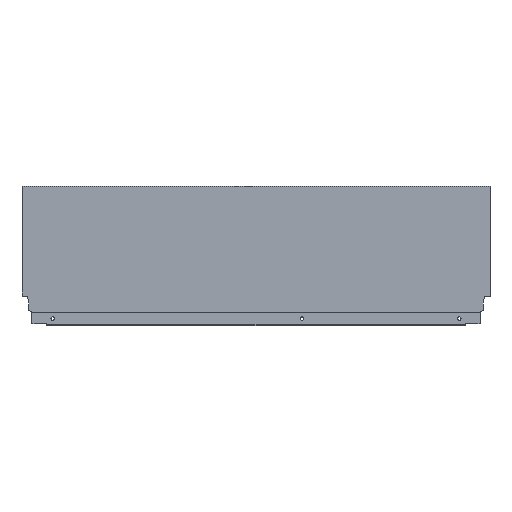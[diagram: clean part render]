
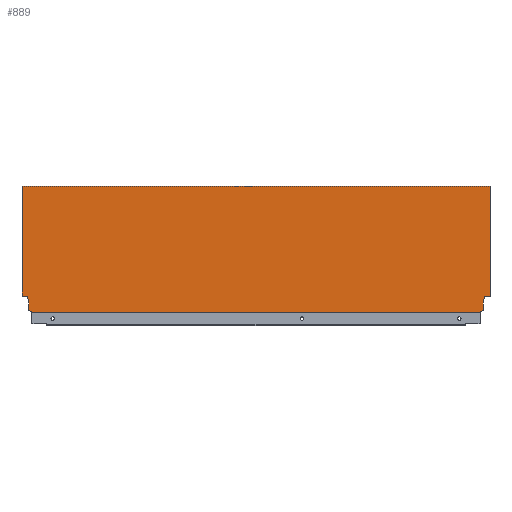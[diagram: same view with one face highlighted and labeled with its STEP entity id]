
A CAD part, top view. The second image highlights one B-rep face of the part: STEP entity #889.
In plain terms, the highlighted planar face has unit normal (0, 0, 1).
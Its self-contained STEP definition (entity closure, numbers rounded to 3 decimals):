
#26 = EDGE_CURVE ( 'NONE', #1122, #1112, #1328, .T. ) ;
#30 = EDGE_CURVE ( 'NONE', #1128, #1108, #1327, .T. ) ;
#32 = EDGE_CURVE ( 'NONE', #1115, #1107, #1297, .T. ) ;
#33 = EDGE_CURVE ( 'NONE', #1122, #1127, #1294, .T. ) ;
#34 = EDGE_CURVE ( 'NONE', #1081, #1127, #1295, .T. ) ;
#35 = EDGE_CURVE ( 'NONE', #1107, #1128, #1288, .T. ) ;
#36 = EDGE_CURVE ( 'NONE', #1100, #1081, #1296, .T. ) ;
#37 = EDGE_CURVE ( 'NONE', #1112, #1115, #1291, .T. ) ;
#38 = EDGE_CURVE ( 'NONE', #1137, #1111, #1289, .T. ) ;
#39 = EDGE_CURVE ( 'NONE', #1125, #1108, #1285, .T. ) ;
#41 = EDGE_CURVE ( 'NONE', #1089, #1100, #1283, .T. ) ;
#43 = EDGE_CURVE ( 'NONE', #1150, #1089, #1279, .T. ) ;
#45 = EDGE_CURVE ( 'NONE', #1111, #1150, #1268, .T. ) ;
#47 = EDGE_CURVE ( 'NONE', #1125, #1137, #1271, .T. ) ;
#162 = CARTESIAN_POINT ( 'NONE',  ( -611., 164.7, 7.5 ) ) ;
#165 = CARTESIAN_POINT ( 'NONE',  ( -8.9, 2.64, 7.5 ) ) ;
#167 = CARTESIAN_POINT ( 'NONE',  ( -597.996, 0., 7.5 ) ) ;
#175 = CARTESIAN_POINT ( 'NONE',  ( -602.1, 2.64, 7.5 ) ) ;
#179 = CARTESIAN_POINT ( 'NONE',  ( -597.996, 1.146, 7.5 ) ) ;
#180 = CARTESIAN_POINT ( 'NONE',  ( 0., 21.2, 7.5 ) ) ;
#183 = CARTESIAN_POINT ( 'NONE',  ( -611., 21.2, 7.5 ) ) ;
#185 = CARTESIAN_POINT ( 'NONE',  ( -602.1, 10.765, 7.5 ) ) ;
#251 = FACE_OUTER_BOUND ( 'NONE', #1465, .T. ) ;
#500 = CARTESIAN_POINT ( 'NONE',  ( -7.06, 21.2, 7.5 ) ) ;
#513 = CARTESIAN_POINT ( 'NONE',  ( -603.94, 21.2, 7.5 ) ) ;
#514 = CARTESIAN_POINT ( 'NONE',  ( -13.004, 0., 7.5 ) ) ;
#519 = CARTESIAN_POINT ( 'NONE',  ( 0., 164.7, 7.5 ) ) ;
#628 = AXIS2_PLACEMENT_3D ( 'NONE', #722, #711, #710 ) ;
#655 = CARTESIAN_POINT ( 'NONE',  ( -8.9, 10.765, 7.5 ) ) ;
#668 = CARTESIAN_POINT ( 'NONE',  ( -13.004, 1.146, 7.5 ) ) ;
#710 = DIRECTION ( 'NONE',  ( 1., 0., 0. ) ) ;
#711 = DIRECTION ( 'NONE',  ( 0., 0., 1. ) ) ;
#722 = CARTESIAN_POINT ( 'NONE',  ( -611., 0., 7.5 ) ) ;
#725 = PLANE ( 'NONE',  #628 ) ;
#766 = ORIENTED_EDGE ( 'NONE', *, *, #39, .T. ) ;
#767 = ORIENTED_EDGE ( 'NONE', *, *, #30, .F. ) ;
#768 = ORIENTED_EDGE ( 'NONE', *, *, #35, .F. ) ;
#799 = ORIENTED_EDGE ( 'NONE', *, *, #43, .F. ) ;
#811 = ORIENTED_EDGE ( 'NONE', *, *, #26, .F. ) ;
#830 = ORIENTED_EDGE ( 'NONE', *, *, #47, .F. ) ;
#835 = ORIENTED_EDGE ( 'NONE', *, *, #36, .F. ) ;
#836 = ORIENTED_EDGE ( 'NONE', *, *, #41, .F. ) ;
#837 = ORIENTED_EDGE ( 'NONE', *, *, #34, .F. ) ;
#838 = ORIENTED_EDGE ( 'NONE', *, *, #33, .T. ) ;
#846 = ORIENTED_EDGE ( 'NONE', *, *, #37, .F. ) ;
#847 = ORIENTED_EDGE ( 'NONE', *, *, #32, .F. ) ;
#855 = ORIENTED_EDGE ( 'NONE', *, *, #45, .F. ) ;
#856 = ORIENTED_EDGE ( 'NONE', *, *, #38, .F. ) ;
#889 = ADVANCED_FACE ( 'NONE', ( #251 ), #725, .T. ) ;
#970 = DIRECTION ( 'NONE',  ( 1., 0., 0. ) ) ;
#973 = CARTESIAN_POINT ( 'NONE',  ( -611., 164.7, 7.5 ) ) ;
#974 = DIRECTION ( 'NONE',  ( -1., 0., 0. ) ) ;
#975 = CARTESIAN_POINT ( 'NONE',  ( 0., 21.2, 7.5 ) ) ;
#978 = DIRECTION ( 'NONE',  ( -0.174, -0.985, 0. ) ) ;
#981 = CARTESIAN_POINT ( 'NONE',  ( -7.06, 21.2, 7.5 ) ) ;
#982 = DIRECTION ( 'NONE',  ( 0., -1., 0. ) ) ;
#986 = DIRECTION ( 'NONE',  ( 0., -1., 0. ) ) ;
#987 = CARTESIAN_POINT ( 'NONE',  ( -8.9, 10.765, 7.5 ) ) ;
#988 = DIRECTION ( 'NONE',  ( 0., -1., 0. ) ) ;
#989 = CARTESIAN_POINT ( 'NONE',  ( -611., 0., 7.5 ) ) ;
#990 = DIRECTION ( 'NONE',  ( -0.94, 0.342, 0. ) ) ;
#991 = CARTESIAN_POINT ( 'NONE',  ( 0., 0., 7.5 ) ) ;
#992 = DIRECTION ( 'NONE',  ( -0.94, -0.342, 0. ) ) ;
#993 = CARTESIAN_POINT ( 'NONE',  ( -602.1, 2.64, 7.5 ) ) ;
#994 = DIRECTION ( 'NONE',  ( -0.174, 0.985, 0. ) ) ;
#995 = CARTESIAN_POINT ( 'NONE',  ( -603.94, 21.2, 7.5 ) ) ;
#996 = DIRECTION ( 'NONE',  ( 0., -1., 0. ) ) ;
#997 = CARTESIAN_POINT ( 'NONE',  ( -8.9, 2.64, 7.5 ) ) ;
#998 = DIRECTION ( 'NONE',  ( 1., 0., 0. ) ) ;
#999 = CARTESIAN_POINT ( 'NONE',  ( -13.004, 1.146, 7.5 ) ) ;
#1000 = DIRECTION ( 'NONE',  ( 0., 1., 0. ) ) ;
#1001 = CARTESIAN_POINT ( 'NONE',  ( -602.1, 10.765, 7.5 ) ) ;
#1005 = DIRECTION ( 'NONE',  ( -1., 0., 0. ) ) ;
#1006 = CARTESIAN_POINT ( 'NONE',  ( -611., 0., 7.5 ) ) ;
#1010 = CARTESIAN_POINT ( 'NONE',  ( -616., 21.2, 7.5 ) ) ;
#1013 = DIRECTION ( 'NONE',  ( 0., 1., 0. ) ) ;
#1014 = CARTESIAN_POINT ( 'NONE',  ( -597.996, 1.146, 7.5 ) ) ;
#1081 = VERTEX_POINT ( 'NONE', #668 ) ;
#1089 = VERTEX_POINT ( 'NONE', #655 ) ;
#1100 = VERTEX_POINT ( 'NONE', #165 ) ;
#1107 = VERTEX_POINT ( 'NONE', #185 ) ;
#1108 = VERTEX_POINT ( 'NONE', #183 ) ;
#1111 = VERTEX_POINT ( 'NONE', #180 ) ;
#1112 = VERTEX_POINT ( 'NONE', #179 ) ;
#1115 = VERTEX_POINT ( 'NONE', #175 ) ;
#1122 = VERTEX_POINT ( 'NONE', #167 ) ;
#1125 = VERTEX_POINT ( 'NONE', #162 ) ;
#1127 = VERTEX_POINT ( 'NONE', #514 ) ;
#1128 = VERTEX_POINT ( 'NONE', #513 ) ;
#1137 = VERTEX_POINT ( 'NONE', #519 ) ;
#1150 = VERTEX_POINT ( 'NONE', #500 ) ;
#1264 = VECTOR ( 'NONE', #970, 1000. ) ;
#1267 = VECTOR ( 'NONE', #974, 1000. ) ;
#1268 = LINE ( 'NONE', #975, #1267 ) ;
#1271 = LINE ( 'NONE', #973, #1264 ) ;
#1272 = VECTOR ( 'NONE', #978, 1000. ) ;
#1276 = VECTOR ( 'NONE', #982, 1000. ) ;
#1279 = LINE ( 'NONE', #981, #1272 ) ;
#1280 = VECTOR ( 'NONE', #986, 1000. ) ;
#1282 = VECTOR ( 'NONE', #988, 1000. ) ;
#1283 = LINE ( 'NONE', #987, #1276 ) ;
#1284 = VECTOR ( 'NONE', #990, 1000. ) ;
#1285 = LINE ( 'NONE', #989, #1280 ) ;
#1286 = VECTOR ( 'NONE', #992, 1000. ) ;
#1287 = VECTOR ( 'NONE', #994, 1000. ) ;
#1288 = LINE ( 'NONE', #995, #1287 ) ;
#1289 = LINE ( 'NONE', #991, #1282 ) ;
#1290 = VECTOR ( 'NONE', #996, 1000. ) ;
#1291 = LINE ( 'NONE', #993, #1284 ) ;
#1292 = VECTOR ( 'NONE', #998, 1000. ) ;
#1294 = LINE ( 'NONE', #1006, #1292 ) ;
#1295 = LINE ( 'NONE', #999, #1290 ) ;
#1296 = LINE ( 'NONE', #997, #1286 ) ;
#1297 = LINE ( 'NONE', #1001, #1319 ) ;
#1298 = VECTOR ( 'NONE', #1005, 1000. ) ;
#1319 = VECTOR ( 'NONE', #1000, 1000. ) ;
#1326 = VECTOR ( 'NONE', #1013, 1000. ) ;
#1327 = LINE ( 'NONE', #1010, #1298 ) ;
#1328 = LINE ( 'NONE', #1014, #1326 ) ;
#1465 = EDGE_LOOP ( 'NONE', ( #766, #767, #768, #847, #846, #811, #838, #837, #835, #836, #799, #855, #856, #830 ) ) ;
